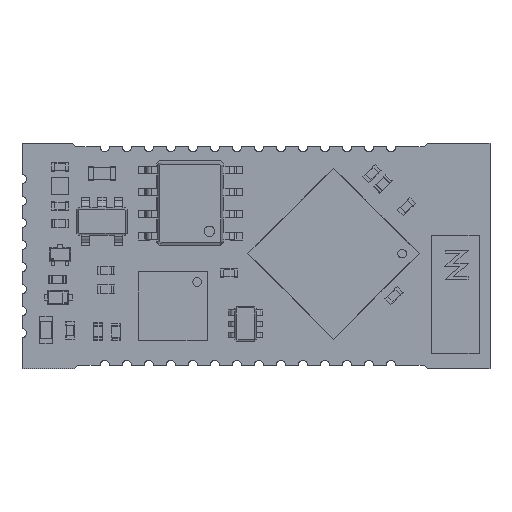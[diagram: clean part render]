
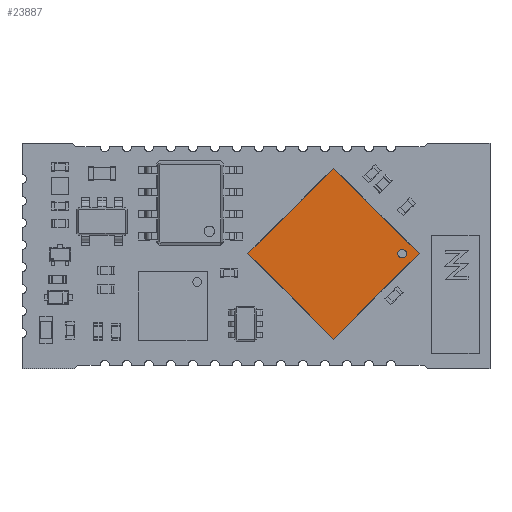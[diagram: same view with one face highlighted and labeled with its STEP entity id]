
A CAD part, top view. The second image highlights one B-rep face of the part: STEP entity #23887.
In plain terms, the highlighted planar face has unit normal (0, 0, 1).
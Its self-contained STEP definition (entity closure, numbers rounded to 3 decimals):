
#268=FACE_BOUND('',#3964,.T.);
#564=CIRCLE('',#25606,0.25);
#2732=FACE_OUTER_BOUND('',#3963,.T.);
#3963=EDGE_LOOP('',(#19937,#19938,#19939,#19940));
#3964=EDGE_LOOP('',(#19941));
#6018=LINE('',#36304,#8855);
#6020=LINE('',#36309,#8857);
#6242=LINE('',#36787,#9079);
#6280=LINE('',#36850,#9117);
#8855=VECTOR('',#29645,10.);
#8857=VECTOR('',#29651,10.);
#9079=VECTOR('',#30059,10.);
#9117=VECTOR('',#30099,10.);
#11342=VERTEX_POINT('',#36301);
#11343=VERTEX_POINT('',#36303);
#11344=VERTEX_POINT('',#36308);
#11507=VERTEX_POINT('',#36786);
#11705=VERTEX_POINT('',#37364);
#14075=EDGE_CURVE('',#11343,#11342,#6018,.T.);
#14077=EDGE_CURVE('',#11343,#11344,#6020,.T.);
#14322=EDGE_CURVE('',#11344,#11507,#6242,.T.);
#14360=EDGE_CURVE('',#11342,#11507,#6280,.T.);
#14623=EDGE_CURVE('',#11705,#11705,#564,.T.);
#19937=ORIENTED_EDGE('',*,*,#14077,.F.);
#19938=ORIENTED_EDGE('',*,*,#14075,.T.);
#19939=ORIENTED_EDGE('',*,*,#14360,.T.);
#19940=ORIENTED_EDGE('',*,*,#14322,.F.);
#19941=ORIENTED_EDGE('',*,*,#14623,.T.);
#22751=PLANE('',#25605);
#23887=ADVANCED_FACE('',(#2732,#268),#22751,.T.);
#25605=AXIS2_PLACEMENT_3D('',#37363,#30540,#30541);
#25606=AXIS2_PLACEMENT_3D('',#37365,#30542,#30543);
#29645=DIRECTION('',(0.,-1.,0.));
#29651=DIRECTION('',(1.,0.,0.));
#30059=DIRECTION('',(0.,-1.,0.));
#30099=DIRECTION('',(1.,0.,0.));
#30540=DIRECTION('center_axis',(0.,0.,1.));
#30541=DIRECTION('ref_axis',(1.,0.,0.));
#30542=DIRECTION('center_axis',(0.,0.,
-1.));
#30543=DIRECTION('ref_axis',(0.559,-0.829,0.));
#36301=CARTESIAN_POINT('',(-3.49,-3.49,0.77));
#36303=CARTESIAN_POINT('',(-3.49,3.49,0.77));
#36304=CARTESIAN_POINT('',(-3.49,3.49,0.77));
#36308=CARTESIAN_POINT('',(3.49,3.49,0.77));
#36309=CARTESIAN_POINT('',(-3.49,3.49,0.77));
#36786=CARTESIAN_POINT('',(3.49,-3.49,0.77));
#36787=CARTESIAN_POINT('',(3.49,3.49,0.77));
#36850=CARTESIAN_POINT('',(-3.49,-3.49,0.77));
#37363=CARTESIAN_POINT('Origin',(-3.49,0.,0.77));
#37364=CARTESIAN_POINT('',(-2.8,2.55,0.77));
#37365=CARTESIAN_POINT('Origin',(-2.8,2.8,0.77));
